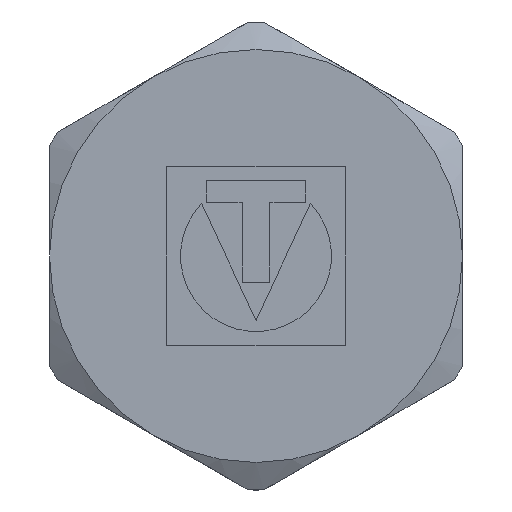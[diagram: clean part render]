
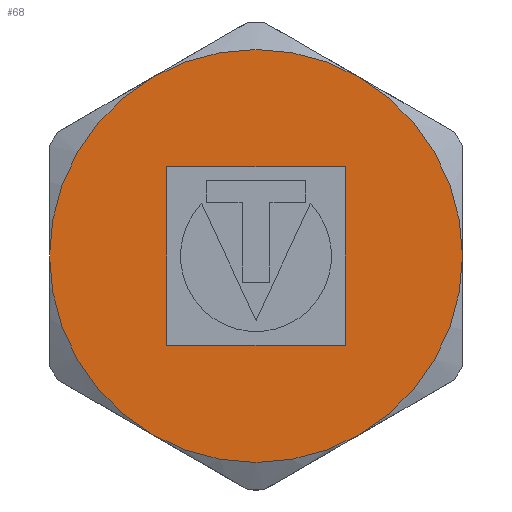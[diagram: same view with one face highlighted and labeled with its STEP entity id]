
A CAD part, front view. The second image highlights one B-rep face of the part: STEP entity #68.
In plain terms, the highlighted planar face has unit normal (0, -1, 0).
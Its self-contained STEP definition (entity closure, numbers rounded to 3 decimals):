
#68=ADVANCED_FACE('',(#260,#262),#264,.F.);
#260=FACE_BOUND('',#261,.T.);
#261=EDGE_LOOP('',(#517,#518,#519));
#262=FACE_BOUND('',#263,.T.);
#263=EDGE_LOOP('',(#520,#521,#522,#523));
#264=PLANE('',#265);
#265=AXIS2_PLACEMENT_3D('',#266,#267,#268);
#266=CARTESIAN_POINT('',(0.,0.,0.));
#267=DIRECTION('',(0.,1.,0.));
#268=DIRECTION('',(-1.,0.,0.));
#517=ORIENTED_EDGE('',*,*,#668,.T.);
#518=ORIENTED_EDGE('',*,*,#667,.T.);
#519=ORIENTED_EDGE('',*,*,#666,.T.);
#520=ORIENTED_EDGE('',*,*,#669,.F.);
#521=ORIENTED_EDGE('',*,*,#670,.F.);
#522=ORIENTED_EDGE('',*,*,#671,.F.);
#523=ORIENTED_EDGE('',*,*,#672,.F.);
#666=EDGE_CURVE('',#763,#792,#804,.F.);
#667=EDGE_CURVE('',#772,#763,#805,.F.);
#668=EDGE_CURVE('',#792,#772,#806,.F.);
#669=EDGE_CURVE('',#807,#808,#809,.F.);
#670=EDGE_CURVE('',#810,#807,#811,.F.);
#671=EDGE_CURVE('',#812,#810,#813,.F.);
#672=EDGE_CURVE('',#808,#812,#814,.F.);
#763=VERTEX_POINT('',#1310);
#772=VERTEX_POINT('',#1380);
#792=VERTEX_POINT('',#1560);
#804=CIRCLE('',#1685,15.);
#805=CIRCLE('',#1689,15.);
#806=CIRCLE('',#1693,15.);
#807=VERTEX_POINT('',#1697);
#808=VERTEX_POINT('',#1698);
#809=LINE('',#1699,#1700);
#810=VERTEX_POINT('',#1702);
#811=LINE('',#1703,#1704);
#812=VERTEX_POINT('',#1706);
#813=LINE('',#1707,#1708);
#814=LINE('',#1710,#1711);
#1310=CARTESIAN_POINT('',(-7.5,0.,-12.99));
#1380=CARTESIAN_POINT('',(-15.,0.,0.));
#1560=CARTESIAN_POINT('',(15.,0.,0.));
#1685=AXIS2_PLACEMENT_3D('',#1686,#1687,#1688);
#1686=CARTESIAN_POINT('',(0.,0.,0.));
#1687=DIRECTION('',(0.,1.,0.));
#1688=DIRECTION('',(1.,0.,0.));
#1689=AXIS2_PLACEMENT_3D('',#1690,#1691,#1692);
#1690=CARTESIAN_POINT('',(0.,0.,0.));
#1691=DIRECTION('',(0.,1.,0.));
#1692=DIRECTION('',(-0.5,0.,-0.866));
#1693=AXIS2_PLACEMENT_3D('',#1694,#1695,#1696);
#1694=CARTESIAN_POINT('',(0.,0.,0.));
#1695=DIRECTION('',(0.,1.,0.));
#1696=DIRECTION('',(-1.,0.,0.));
#1697=CARTESIAN_POINT('',(6.498,0.,-6.498));
#1698=CARTESIAN_POINT('',(6.498,0.,6.498));
#1699=CARTESIAN_POINT('',(6.498,0.,6.498));
#1700=VECTOR('',#1701,1.);
#1701=DIRECTION('',(0.,0.,-1.));
#1702=CARTESIAN_POINT('',(-6.498,0.,-6.498));
#1703=CARTESIAN_POINT('',(6.498,0.,-6.498));
#1704=VECTOR('',#1705,1.);
#1705=DIRECTION('',(-1.,0.,0.));
#1706=CARTESIAN_POINT('',(-6.498,0.,6.498));
#1707=CARTESIAN_POINT('',(-6.498,0.,-6.498));
#1708=VECTOR('',#1709,1.);
#1709=DIRECTION('',(0.,0.,1.));
#1710=CARTESIAN_POINT('',(-6.498,0.,6.498));
#1711=VECTOR('',#1712,1.);
#1712=DIRECTION('',(1.,0.,0.));
